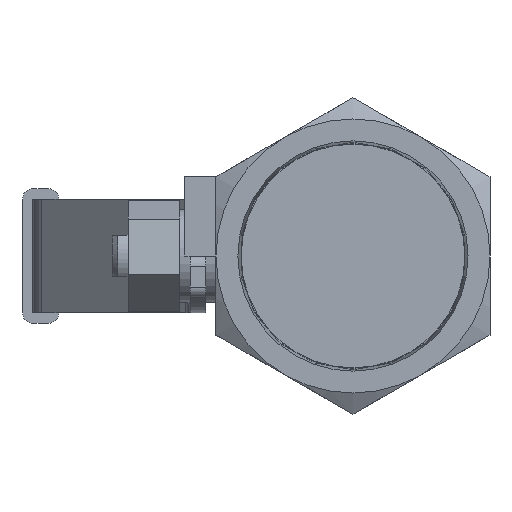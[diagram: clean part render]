
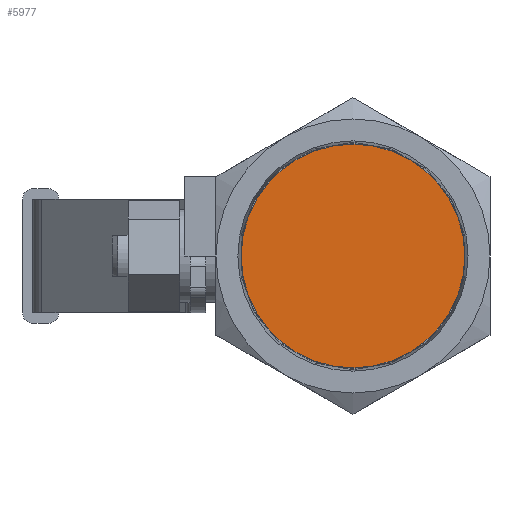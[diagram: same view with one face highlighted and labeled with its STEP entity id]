
A CAD part, left-side view. The second image highlights one B-rep face of the part: STEP entity #5977.
In plain terms, the highlighted planar face has unit normal (-1, 0, 0).
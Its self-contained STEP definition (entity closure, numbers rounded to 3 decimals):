
#179=PLANE('',#6335);
#418=FACE_OUTER_BOUND('',#748,.T.);
#748=EDGE_LOOP('',(#3919));
#2385=CIRCLE('',#6333,21.628);
#2511=VERTEX_POINT('',#8305);
#3065=EDGE_CURVE('',#2511,#2511,#2385,.T.);
#3919=ORIENTED_EDGE('',*,*,#3065,.T.);
#5977=ADVANCED_FACE('',(#418),#179,.T.);
#6333=AXIS2_PLACEMENT_3D('',#8306,#6788,#6789);
#6335=AXIS2_PLACEMENT_3D('',#8310,#6793,#6794);
#6788=DIRECTION('center_axis',(-1.,0.,0.));
#6789=DIRECTION('ref_axis',(0.,0.,
1.));
#6793=DIRECTION('center_axis',(-1.,0.,0.));
#6794=DIRECTION('ref_axis',(0.,0.,
1.));
#8305=CARTESIAN_POINT('',(-58.986,-10.585,-21.628));
#8306=CARTESIAN_POINT('Origin',(-58.986,-10.585,0.));
#8310=CARTESIAN_POINT('Origin',(-58.986,-10.585,0.));
